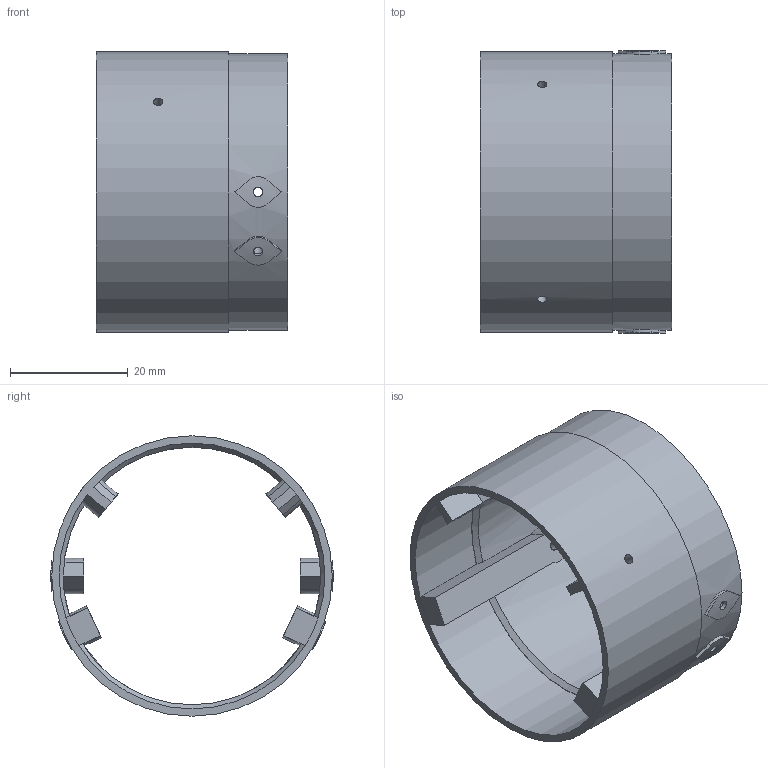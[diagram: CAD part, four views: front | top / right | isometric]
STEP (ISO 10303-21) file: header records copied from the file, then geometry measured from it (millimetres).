
FILE_DESCRIPTION(('SkyG Speed 120B - revision C7B-1 - 2026-10-09','TC-tail-coupler'),'2;1');
FILE_NAME('TC-tail-coupler_C7B-1','2026-10-09T15:13:01',('Author'),( 'Open CASCADE'),'Open CASCADE STEP processor 7.9','Open CASCADE 7.9' ,'Unknown');
FILE_SCHEMA(('AUTOMOTIVE_DESIGN { 1 0 10303 214 1 1 1 1 }'));
Length unit declared in the file: millimetre
Products named in the file (1): TC-tail-coupler C7B-1
Bounding box: 32.5 x 48 x 47.7 mm (x, y, z)
Volume: 8925.3 mm3; surface area: 11018.8 mm2
Topology: 1 solids, 1 shells, 111 faces, 306 edges, 202 vertices
Faces by surface type: plane 66, cylinder 41, cone 4
Full cylindrical faces by diameter (mm): 1.6 x10, 43.8 x1, 47 x1, 47.7 x1
Entity records: 10316 total; most frequent: CARTESIAN_POINT 4594, DIRECTION 950, ORIENTED_EDGE 612, PCURVE 612, DEFINITIONAL_REPRESENTATION 612, LINE 402, VECTOR 402, EDGE_CURVE 306
